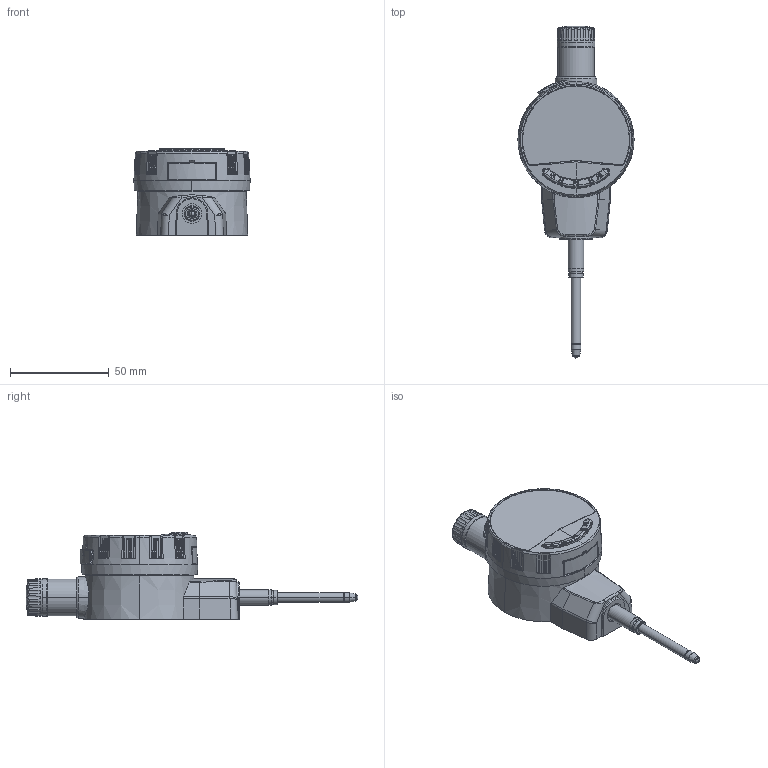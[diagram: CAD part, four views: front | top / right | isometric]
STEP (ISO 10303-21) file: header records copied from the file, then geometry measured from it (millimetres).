
FILE_DESCRIPTION(('Creo Elements/Direct Modeling STEP Export'),'2;1');
FILE_NAME('543-720B_721B_725B_726B.stp','2022-09-05T13:46:16',(''),(''),'Creo Elements/Direct Modeling STEP processor for AP214 (Solid Model)','Creo Elements/Direct Modeling 18.1I 13-Aug-2016 (C) Parametric Technology GmbH','');
FILE_SCHEMA(('AUTOMOTIVE_DESIGN { 1 0 10303 214 1 1 1 1 }'));
Length unit declared in the file: millimetre
Products named in the file (2): main; Assembly-1
Assembly tree (1 placements, depth 2):
  Assembly-1
    main
Bounding box: 59 x 168.48 x 44.52 mm (x, y, z)
Volume: 130452.3 mm3; surface area: 19911.6 mm2
Topology: 1 solids, 1 shells, 927 faces, 2556 edges, 1577 vertices
Faces by surface type: plane 276, cylinder 259, bspline 119, cone 113, sphere 96, torus 44, extrusion 20
Entity records: 33441 total; most frequent: CARTESIAN_POINT 12140, ORIENTED_EDGE 4944, DIRECTION 3728, EDGE_CURVE 2472, VERTEX_POINT 1577, AXIS2_PLACEMENT_3D 1398, EDGE_LOOP 957, VECTOR 932
